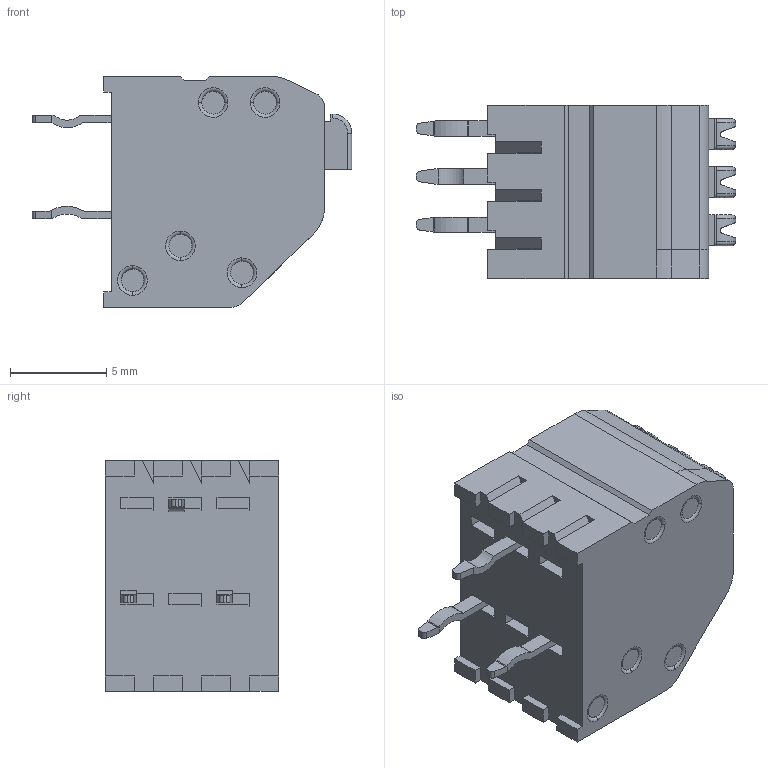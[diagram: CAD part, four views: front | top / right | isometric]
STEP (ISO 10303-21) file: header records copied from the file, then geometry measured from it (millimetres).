
FILE_DESCRIPTION((''),'2;1');
FILE_NAME('HC03B0X00000G','2019-04-17T',('zhenbing.lai'),(''),'CREO PARAMETRIC BY PTC INC, 2016260','CREO PARAMETRIC BY PTC INC, 2016260','');
FILE_SCHEMA(('CONFIG_CONTROL_DESIGN'));
Length unit declared in the file: millimetre
Products named in the file (1): HC03B0X00000G
Bounding box: 16.6 x 9 x 12 mm (x, y, z)
Volume: 1068.8 mm3; surface area: 886.7 mm2
Topology: 1 solids, 5 shells, 425 faces, 1143 edges, 748 vertices
Faces by surface type: plane 277, cylinder 74, cone 36, torus 29, bspline 9
Entity records: 13839 total; most frequent: CARTESIAN_POINT 3082, ORIENTED_EDGE 2286, DIRECTION 2171, EDGE_CURVE 1143, VECTOR 773, LINE 773, VERTEX_POINT 748, AXIS2_PLACEMENT_3D 699
